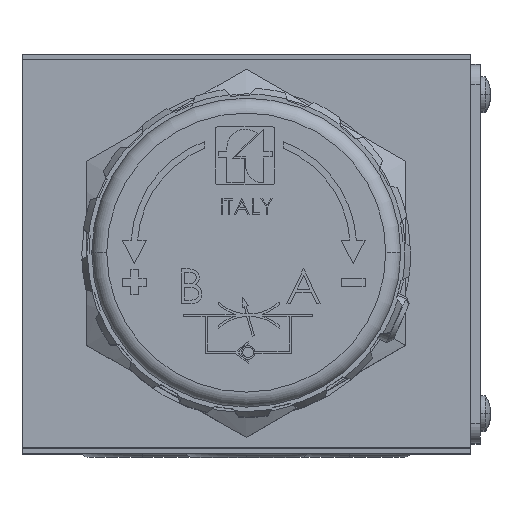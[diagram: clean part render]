
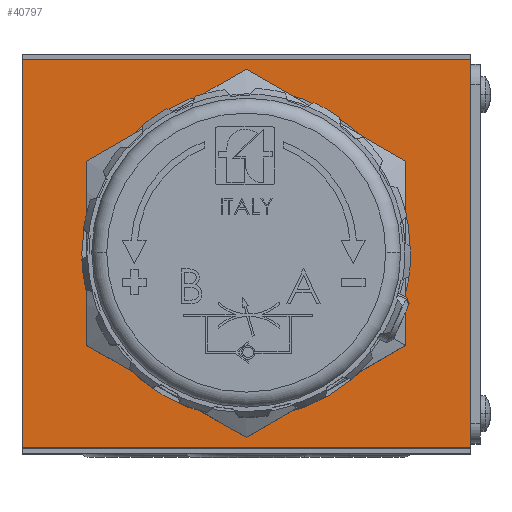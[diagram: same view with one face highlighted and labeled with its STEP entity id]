
A CAD part, top view. The second image highlights one B-rep face of the part: STEP entity #40797.
In plain terms, the highlighted planar face has unit normal (0, 0, 1).
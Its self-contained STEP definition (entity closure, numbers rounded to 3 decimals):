
#8743 = ORIENTED_EDGE ( 'NONE', *, *, #53677, .F. ) ;
#12029 = DIRECTION ( 'NONE',  ( 0., 0., 1. ) ) ;
#13791 = VERTEX_POINT ( 'NONE', #51635 ) ;
#13929 = AXIS2_PLACEMENT_3D ( 'NONE', #18157, #76838, #26598 ) ;
#15885 = LINE ( 'NONE', #80569, #102540 ) ;
#18157 = CARTESIAN_POINT ( 'NONE',  ( 0., 0., 47.5 ) ) ;
#18981 = VERTEX_POINT ( 'NONE', #21220 ) ;
#19223 = EDGE_LOOP ( 'NONE', ( #49354, #91860 ) ) ;
#21220 = CARTESIAN_POINT ( 'NONE',  ( 22.5, -19.5, 47.5 ) ) ;
#21297 = CARTESIAN_POINT ( 'NONE',  ( -22.5, 20., 47.5 ) ) ;
#23798 = LINE ( 'NONE', #30725, #48772 ) ;
#26410 = LINE ( 'NONE', #21297, #90727 ) ;
#26598 = DIRECTION ( 'NONE',  ( 1., 0., 0. ) ) ;
#27677 = EDGE_CURVE ( 'NONE', #18981, #13791, #23798, .T. ) ;
#28552 = CARTESIAN_POINT ( 'NONE',  ( -22.5, -20., 47.5 ) ) ;
#30565 = AXIS2_PLACEMENT_3D ( 'NONE', #28552, #12029, #70752 ) ;
#30725 = CARTESIAN_POINT ( 'NONE',  ( 22.5, 20., 47.5 ) ) ;
#31094 = VERTEX_POINT ( 'NONE', #70658 ) ;
#32090 = VECTOR ( 'NONE', #100603, 1000. ) ;
#33461 = CARTESIAN_POINT ( 'NONE',  ( -22.5, -19.5, 47.5 ) ) ;
#34714 = LINE ( 'NONE', #33461, #32090 ) ;
#38342 = DIRECTION ( 'NONE',  ( 0., 0., 1. ) ) ;
#39841 = EDGE_LOOP ( 'NONE', ( #8743, #93452, #102240, #66361 ) ) ;
#40797 = ADVANCED_FACE ( 'NONE', ( #43879, #108246 ), #95695, .T. ) ;
#43879 = FACE_BOUND ( 'NONE', #19223, .T. ) ;
#46154 = CARTESIAN_POINT ( 'NONE',  ( -16.5, 0., 47.5 ) ) ;
#46680 = EDGE_CURVE ( 'NONE', #91219, #70895, #81239, .T. ) ;
#46684 = AXIS2_PLACEMENT_3D ( 'NONE', #88628, #38342, #97075 ) ;
#47233 = DIRECTION ( 'NONE',  ( 1., 0., 0. ) ) ;
#48772 = VECTOR ( 'NONE', #97517, 1000. ) ;
#49046 = CARTESIAN_POINT ( 'NONE',  ( -22.5, 19.5, 47.5 ) ) ;
#49354 = ORIENTED_EDGE ( 'NONE', *, *, #106106, .F. ) ;
#51635 = CARTESIAN_POINT ( 'NONE',  ( 22.5, 19.5, 47.5 ) ) ;
#53677 = EDGE_CURVE ( 'NONE', #18981, #31094, #34714, .T. ) ;
#55138 = CIRCLE ( 'NONE', #13929, 16.5 ) ;
#60043 = EDGE_CURVE ( 'NONE', #105941, #13791, #15885, .T. ) ;
#66361 = ORIENTED_EDGE ( 'NONE', *, *, #104379, .T. ) ;
#70658 = CARTESIAN_POINT ( 'NONE',  ( -22.5, -19.5, 47.5 ) ) ;
#70752 = DIRECTION ( 'NONE',  ( 1., 0., 0. ) ) ;
#70895 = VERTEX_POINT ( 'NONE', #87528 ) ;
#76838 = DIRECTION ( 'NONE',  ( 0., 0., 1. ) ) ;
#80569 = CARTESIAN_POINT ( 'NONE',  ( -22.5, 19.5, 47.5 ) ) ;
#81239 = CIRCLE ( 'NONE', #46684, 16.5 ) ;
#87528 = CARTESIAN_POINT ( 'NONE',  ( 16.5, 0., 47.5 ) ) ;
#88628 = CARTESIAN_POINT ( 'NONE',  ( 0., 0., 47.5 ) ) ;
#90727 = VECTOR ( 'NONE', #97241, 1000. ) ;
#91219 = VERTEX_POINT ( 'NONE', #46154 ) ;
#91860 = ORIENTED_EDGE ( 'NONE', *, *, #46680, .F. ) ;
#93452 = ORIENTED_EDGE ( 'NONE', *, *, #27677, .T. ) ;
#95695 = PLANE ( 'NONE',  #30565 ) ;
#97075 = DIRECTION ( 'NONE',  ( 1., 0., 0. ) ) ;
#97241 = DIRECTION ( 'NONE',  ( 0., -1., 0. ) ) ;
#97517 = DIRECTION ( 'NONE',  ( 0., 1., 0. ) ) ;
#100603 = DIRECTION ( 'NONE',  ( -1., 0., 0. ) ) ;
#102240 = ORIENTED_EDGE ( 'NONE', *, *, #60043, .F. ) ;
#102540 = VECTOR ( 'NONE', #47233, 1000. ) ;
#104379 = EDGE_CURVE ( 'NONE', #105941, #31094, #26410, .T. ) ;
#105941 = VERTEX_POINT ( 'NONE', #49046 ) ;
#106106 = EDGE_CURVE ( 'NONE', #70895, #91219, #55138, .T. ) ;
#108246 = FACE_OUTER_BOUND ( 'NONE', #39841, .T. ) ;
